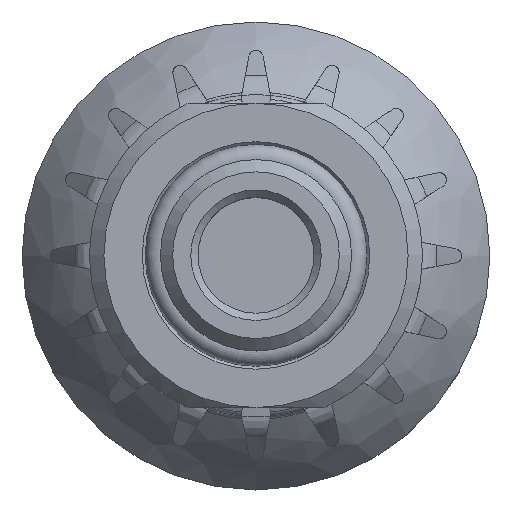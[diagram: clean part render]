
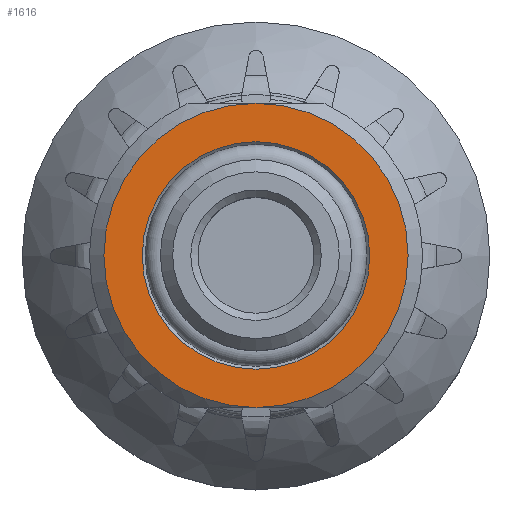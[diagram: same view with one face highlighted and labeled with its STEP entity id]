
A CAD part, top view. The second image highlights one B-rep face of the part: STEP entity #1616.
In plain terms, the highlighted planar face has unit normal (0, 0, 1).
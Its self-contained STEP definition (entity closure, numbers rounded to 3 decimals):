
#1616 = ADVANCED_FACE( '', ( #3547, #3548 ), #3549, .F. );
#3547 = FACE_OUTER_BOUND( '', #6783, .T. );
#3548 = FACE_BOUND( '', #6784, .T. );
#3549 = PLANE( '', #6785 );
#6783 = EDGE_LOOP( '', ( #11303, #11304 ) );
#6784 = EDGE_LOOP( '', ( #11305 ) );
#6785 = AXIS2_PLACEMENT_3D( '', #11306, #11307, #11308 );
#11303 = ORIENTED_EDGE( '', *, *, #13863, .F. );
#11304 = ORIENTED_EDGE( '', *, *, #13872, .F. );
#11305 = ORIENTED_EDGE( '', *, *, #13875, .T. );
#11306 = CARTESIAN_POINT( '', ( -7.85, 0., 1.874 ) );
#11307 = DIRECTION( '', ( 0., 0., -1. ) );
#11308 = DIRECTION( '', ( -1., 0., 0. ) );
#13863 = EDGE_CURVE( '', #16365, #16361, #16367, .T. );
#13872 = EDGE_CURVE( '', #16361, #16365, #16383, .T. );
#13875 = EDGE_CURVE( '', #16387, #16387, #16388, .T. );
#16361 = VERTEX_POINT( '', #25679 );
#16365 = VERTEX_POINT( '', #25690 );
#16367 = CIRCLE( '', #25699, 10.5 );
#16383 = CIRCLE( '', #25729, 10.5 );
#16387 = VERTEX_POINT( '', #25738 );
#16388 = CIRCLE( '', #25739, 7.85 );
#25679 = CARTESIAN_POINT( '', ( 0., 10.5, 1.874 ) );
#25690 = CARTESIAN_POINT( '', ( 0., -10.5, 1.874 ) );
#25699 = AXIS2_PLACEMENT_3D( '', #27206, #27207, #27208 );
#25729 = AXIS2_PLACEMENT_3D( '', #27218, #27219, #27220 );
#25738 = CARTESIAN_POINT( '', ( -7.85, 0., 1.874 ) );
#25739 = AXIS2_PLACEMENT_3D( '', #27224, #27225, #27226 );
#27206 = CARTESIAN_POINT( '', ( 0., 0., 1.874 ) );
#27207 = DIRECTION( '', ( 0., 0., -1. ) );
#27208 = DIRECTION( '', ( -1., 0., 0. ) );
#27218 = CARTESIAN_POINT( '', ( 0., 0., 1.874 ) );
#27219 = DIRECTION( '', ( 0., 0., -1. ) );
#27220 = DIRECTION( '', ( -1., 0., 0. ) );
#27224 = CARTESIAN_POINT( '', ( 0., 0., 1.874 ) );
#27225 = DIRECTION( '', ( 0., 0., -1. ) );
#27226 = DIRECTION( '', ( -1., 0., 0. ) );
